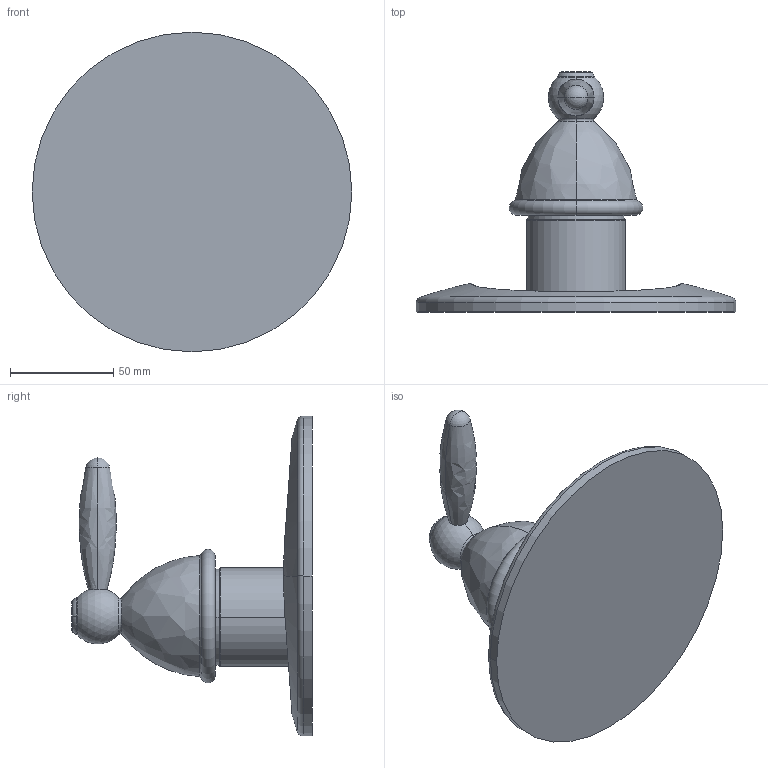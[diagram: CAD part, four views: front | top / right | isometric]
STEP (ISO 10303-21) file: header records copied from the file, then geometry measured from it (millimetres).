
FILE_DESCRIPTION((''),'2;1');
FILE_NAME('F5009X1_FILE_3D','2013-06-11T',('ivanv'),(''),'PRO/ENGINEER BY PARAMETRIC TECHNOLOGY CORPORATION, 2012130','PRO/ENGINEER BY PARAMETRIC TECHNOLOGY CORPORATION, 2012130','');
FILE_SCHEMA(('CONFIG_CONTROL_DESIGN'));
Length unit declared in the file: millimetre
Products named in the file (1): F5009X1_FILE_3D
Bounding box: 155 x 116.5 x 155 mm (x, y, z)
Volume: 349058.4 mm3; surface area: 59772.2 mm2
Topology: 1 solids, 1 shells, 55 faces, 117 edges, 67 vertices
Faces by surface type: torus 24, plane 9, bspline 8, sphere 6, cylinder 6, cone 2
Entity records: 2226 total; most frequent: CARTESIAN_POINT 978, DIRECTION 298, ORIENTED_EDGE 230, AXIS2_PLACEMENT_3D 143, EDGE_CURVE 115, CIRCLE 95, VERTEX_POINT 67, EDGE_LOOP 60
